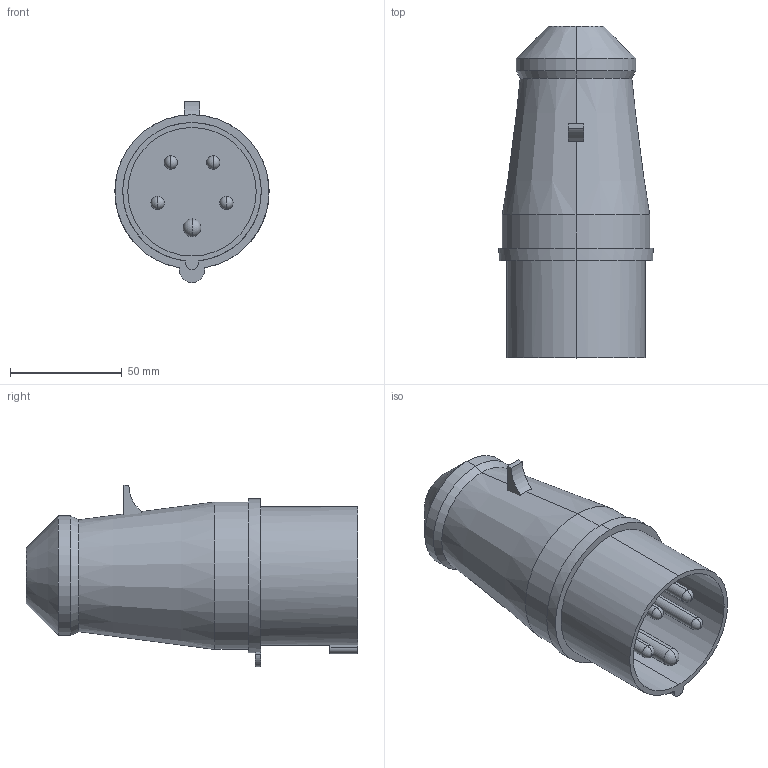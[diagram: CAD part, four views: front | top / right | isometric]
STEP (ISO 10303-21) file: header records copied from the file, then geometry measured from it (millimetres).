
FILE_DESCRIPTION (( 'STEP AP214' ), '1' );
FILE_NAME ('Âèëêà êàáåëüíàÿ 025-32À-6h-380AC-3P+PE+N-IP44.STEP', '2023-05-26T07:20:39', ( '' ), ( '' ), 'SwSTEP 2.0', 'SolidWorks 2018', '' );
FILE_SCHEMA (( 'AUTOMOTIVE_DESIGN' ));
Length unit declared in the file: millimetre
Products named in the file (1): Âèëêà êàáåëüíàÿ 025-32À-6h-380AC-3P+PE+N-IP44
Bounding box: 69 x 148.5 x 81.15 mm (x, y, z)
Volume: 298119.7 mm3; surface area: 45237.9 mm2
Topology: 2 solids, 2 shells, 58 faces, 145 edges, 89 vertices
Faces by surface type: cylinder 25, plane 17, sphere 10, cone 6
Entity records: 1636 total; most frequent: DIRECTION 311, CARTESIAN_POINT 263, ORIENTED_EDGE 250, AXIS2_PLACEMENT_3D 127, EDGE_CURVE 125, VERTEX_POINT 79, CIRCLE 68, EDGE_LOOP 66
